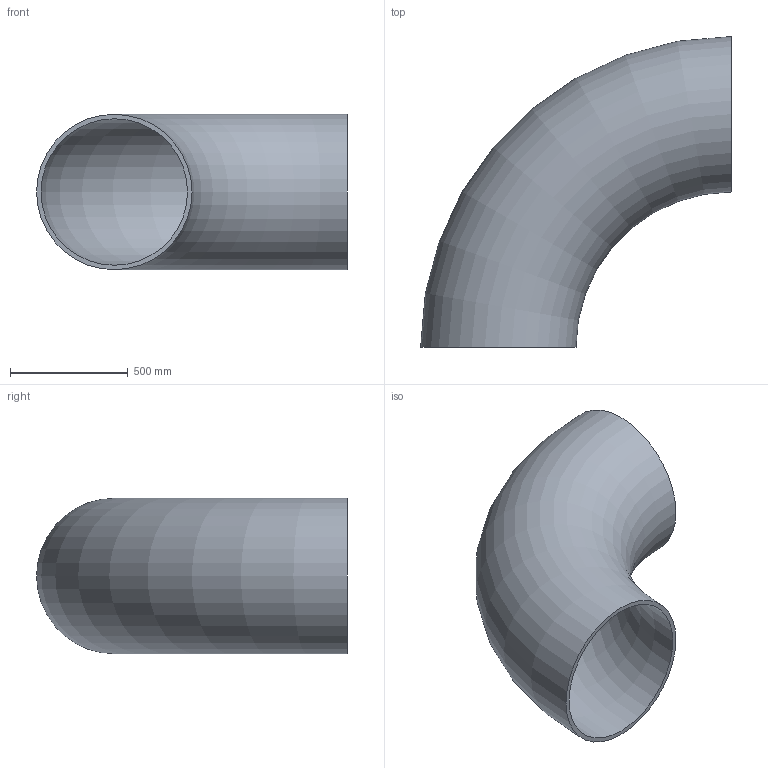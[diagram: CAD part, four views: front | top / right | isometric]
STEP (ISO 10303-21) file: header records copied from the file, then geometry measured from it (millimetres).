
FILE_DESCRIPTION(/* description */ (''),/* implementation_level */ '2;1');
FILE_NAME(/* name */ 'C:\Users\D\Documents\Inventor\HP\JIS\配管\エルボ ロング 90°\Sch40\Elbow-long-90-650A-Sch40.stp',/* time_stamp */ '2022-06-09T18:38:01+09:00',/* author */ ('D'),/* organization */ (''),/* preprocessor_version */ 'ST-DEVELOPER v18',/* originating_system */ 'Autodesk Inventor 2020',/* authorisation */ '');
FILE_SCHEMA (('AUTOMOTIVE_DESIGN { 1 0 10303 214 3 1 1 }'));
Length unit declared in the file: millimetre
Products named in the file (1): Elbow-long-90-15A-SGP
Bounding box: 1320.8 x 1320.8 x 660.4 mm (x, y, z)
Volume: 59268855.1 mm3; surface area: 6348016.1 mm2
Topology: 1 solids, 1 shells, 4 faces, 10 edges, 8 vertices
Faces by surface type: torus 2, plane 2
Entity records: 181 total; most frequent: DIRECTION 30, CARTESIAN_POINT 23, ORIENTED_EDGE 20, AXIS2_PLACEMENT_3D 15, CIRCLE 10, EDGE_CURVE 10, VERTEX_POINT 8, EDGE_LOOP 6
